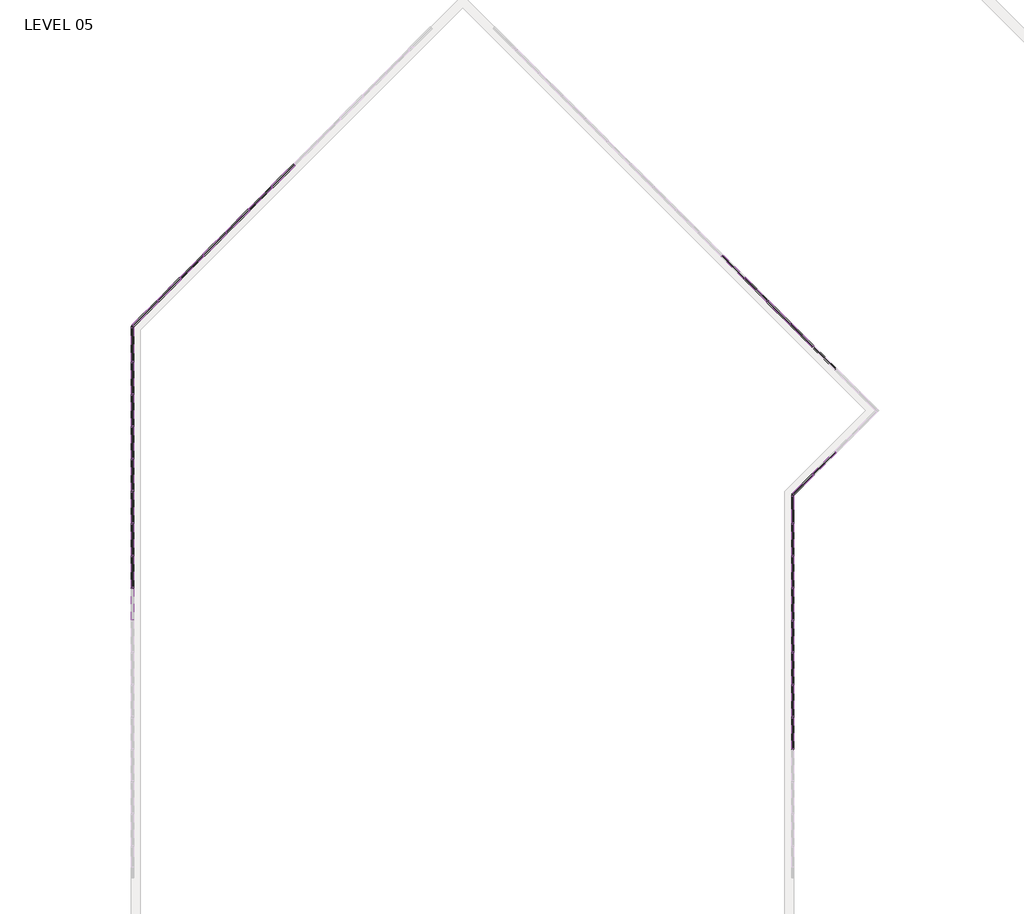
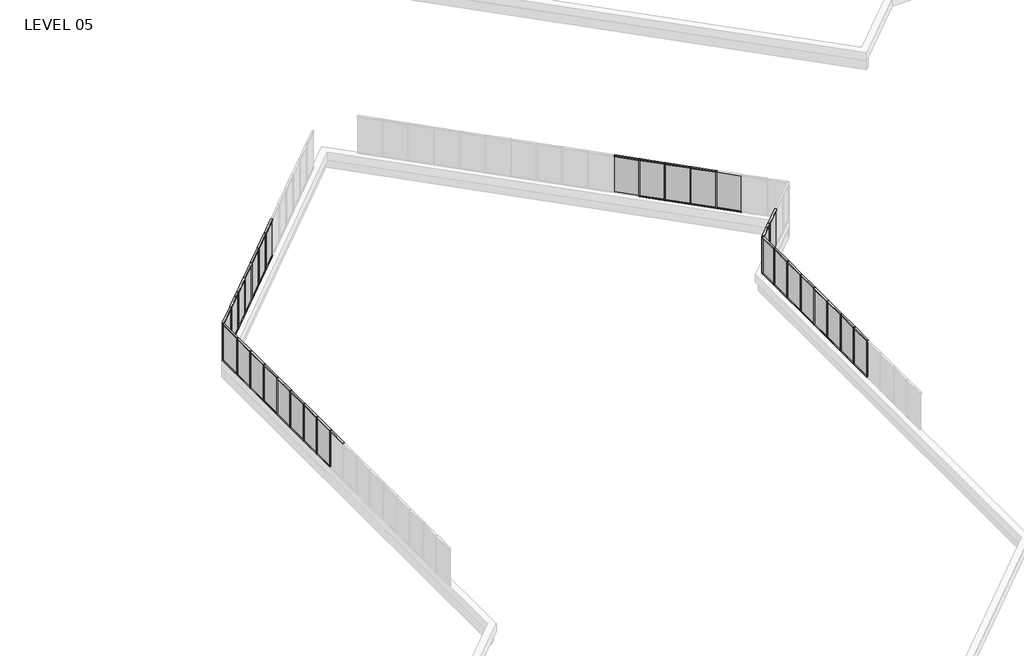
# One storey, part 5 of 17: 89 members, 30 plates.
"""IFC4 building model written with IfcOpenShell, lengths in millimetres."""

from ifc_helpers import new_model, si_unit, origin, place, context, project, spatial, transform, mapped, element, save
from components import member_5247f267, member_e44af9ab, member_800970d4, member_45eb7f2e, member_1bd862b2, member_c975838b, plate_67294edd, plate_bbcbcabf, plate_9c66726c, plate_3fb62afd, plate_129ab9d0

model = new_model("IFC4")

# Units and contexts
model_context = context("Model", 3, world=origin())
ifc_project = project(units=[si_unit("LENGTHUNIT", "METRE", prefix="MILLI")], contexts=[model_context])

# Site, building, storey
site = spatial("IfcSite", under=ifc_project)
building = spatial("IfcBuilding", under=site)
storey = spatial("IfcBuildingStorey", under=building, Name="LEVEL 05", Elevation=15824.2)

# Members
placement = place(None, origin())
member_shape = member_5247f267(model_context)
element("IfcMember", 1, ObjectType="Rectangular Mullion : 2\" x 4.5\" rectangular", at=placement, inside=storey, context=model_context, shape_type="MappedRepresentation", body=[
    mapped(member_shape, transform((-32784.0347164, 64350.5675885, 18415.0), x_axis=(0.0, 0.0, 1.0), y_axis=(1.0, 0.0, 0.0), z_axis=(0.0, 1.0, 0.0))),
])
element("IfcMember", 2, ObjectType="Rectangular Mullion : 2\" x 4.5\" rectangular", at=placement, inside=storey, context=model_context, shape_type="MappedRepresentation", body=[
    mapped(member_shape, transform((-32784.0347164, 67398.5675885, 18415.0), x_axis=(0.0, 0.0, 1.0), y_axis=(1.0, 0.0, 0.0), z_axis=(0.0, 1.0, 0.0))),
])
element("IfcMember", 3, ObjectType="Rectangular Mullion : 2\" x 4.5\" rectangular", at=placement, inside=storey, context=model_context, shape_type="MappedRepresentation", body=[
    mapped(member_shape, transform((-32784.0347164, 71970.5675885, 18415.0), x_axis=(0.0, 0.0, 1.0), y_axis=(1.0, 0.0, 0.0), z_axis=(0.0, 1.0, 0.0))),
])
element("IfcMember", 4, ObjectType="Rectangular Mullion : 2\" x 4.5\" rectangular", at=placement, inside=storey, context=model_context, shape_type="MappedRepresentation", body=[
    mapped(member_shape, transform((-32784.0347164, 73494.5675885, 18415.0), x_axis=(0.0, 0.0, 1.0), y_axis=(1.0, 0.0, 0.0), z_axis=(0.0, 1.0, 0.0))),
])
element("IfcMember", 5, ObjectType="Rectangular Mullion : 2\" x 4.5\" rectangular", at=placement, inside=storey, context=model_context, shape_type="MappedRepresentation", body=[
    mapped(member_shape, transform((-32784.0347164, 65874.5675885, 18415.0), x_axis=(0.0, 0.0, 1.0), y_axis=(1.0, 0.0, 0.0), z_axis=(0.0, 1.0, 0.0))),
])
element("IfcMember", 6, ObjectType="Rectangular Mullion : 2\" x 4.5\" rectangular", at=placement, inside=storey, context=model_context, shape_type="MappedRepresentation", body=[
    mapped(member_shape, transform((-32784.0347164, 68922.5675885, 18415.0), x_axis=(0.0, 0.0, 1.0), y_axis=(1.0, 0.0, 0.0), z_axis=(0.0, 1.0, 0.0))),
])
element("IfcMember", 7, ObjectType="Rectangular Mullion : 2\" x 4.5\" rectangular", at=placement, inside=storey, context=model_context, shape_type="MappedRepresentation", body=[
    mapped(member_shape, transform((-32784.0347164, 70446.5675885, 18415.0), x_axis=(0.0, 0.0, 1.0), y_axis=(1.0, 0.0, 0.0), z_axis=(0.0, 1.0, 0.0))),
])
element("IfcMember", 8, ObjectType="Rectangular Mullion : 2\" x 4.5\" rectangular", at=placement, inside=storey, context=model_context, shape_type="MappedRepresentation", body=[
    mapped(member_shape, transform((-32784.0347164, 75018.5675885, 18415.0), x_axis=(0.0, 0.0, 1.0), y_axis=(1.0, 0.0, 0.0), z_axis=(0.0, 1.0, 0.0))),
])
element("IfcMember", 9, ObjectType="Rectangular Mullion : 2\" x 4.5\" rectangular", at=placement, inside=storey, context=model_context, shape_type="MappedRepresentation", body=[
    mapped(member_shape, transform((-30529.7405, 78987.9679405, 18415.0), x_axis=(0.0, 0.0, 1.0), y_axis=(0.7071067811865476, -0.7071067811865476, 0.0), z_axis=(0.7071067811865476, 0.7071067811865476, 0.0))),
])
element("IfcMember", 10, ObjectType="Rectangular Mullion : 2\" x 4.5\" rectangular", at=placement, inside=storey, context=model_context, shape_type="MappedRepresentation", body=[
    mapped(member_shape, transform((-29452.1097655, 80065.598675, 18415.0), x_axis=(0.0, 0.0, 1.0), y_axis=(0.7071067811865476, -0.7071067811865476, 0.0), z_axis=(0.7071067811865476, 0.7071067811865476, 0.0))),
])
element("IfcMember", 11, ObjectType="Rectangular Mullion : 2\" x 4.5\" rectangular", at=placement, inside=storey, context=model_context, shape_type="MappedRepresentation", body=[
    mapped(member_shape, transform((-28374.479031, 81143.2294096, 18415.0), x_axis=(0.0, 0.0, 1.0), y_axis=(0.7071067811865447, -0.7071067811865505, 0.0), z_axis=(0.7071067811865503, 0.7071067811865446, 0.0))),
])
element("IfcMember", 12, ObjectType="Rectangular Mullion : 2\" x 4.5\" rectangular", at=placement, inside=storey, context=model_context, shape_type="MappedRepresentation", body=[
    mapped(member_shape, transform((-26219.2175619, 83298.4908786, 18415.0), x_axis=(0.0, 0.0, 1.0), y_axis=(0.707106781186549, -0.7071067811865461, 0.0), z_axis=(0.7071067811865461, 0.707106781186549, 0.0))),
])
element("IfcMember", 13, ObjectType="Rectangular Mullion : 2\" x 4.5\" rectangular", at=placement, inside=storey, context=model_context, shape_type="MappedRepresentation", body=[
    mapped(member_shape, transform((-25141.5868274, 84376.1216131, 18415.0), x_axis=(0.0, 0.0, 1.0), y_axis=(0.7071067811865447, -0.7071067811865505, 0.0), z_axis=(0.7071067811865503, 0.7071067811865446, 0.0))),
])
element("IfcMember", 14, ObjectType="Rectangular Mullion : 2\" x 4.5\" rectangular", at=placement, inside=storey, context=model_context, shape_type="MappedRepresentation", body=[
    mapped(member_shape, transform((-27296.8482965, 82220.8601441, 18415.0), x_axis=(0.0, 0.0, 1.0), y_axis=(0.7071067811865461, -0.707106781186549, 0.0), z_axis=(0.707106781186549, 0.7071067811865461, 0.0))),
])
element("IfcMember", 15, ObjectType="Rectangular Mullion : 2\" x 4.5\" rectangular", at=placement, inside=storey, context=model_context, shape_type="MappedRepresentation", body=[
    mapped(member_shape, transform((-3902.2786299, 79024.0676376, 18415.0), x_axis=(0.0, 0.0, 1.0), y_axis=(-0.7071067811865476, -0.7071067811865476, 0.0), z_axis=(0.7071067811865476, -0.7071067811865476, 0.0))),
])
element("IfcMember", 16, ObjectType="Rectangular Mullion : 2\" x 4.5\" rectangular", at=placement, inside=storey, context=model_context, shape_type="MappedRepresentation", body=[
    mapped(member_shape, transform((-2824.6478954, 77946.4369031, 18415.0), x_axis=(0.0, 0.0, 1.0), y_axis=(-0.7071067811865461, -0.707106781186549, 0.0), z_axis=(0.707106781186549, -0.7071067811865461, 0.0))),
])
element("IfcMember", 17, ObjectType="Rectangular Mullion : 2\" x 4.5\" rectangular", at=placement, inside=storey, context=model_context, shape_type="MappedRepresentation", body=[
    mapped(member_shape, transform((-1747.0171608, 76868.8061686, 18415.0), x_axis=(0.0, 0.0, 1.0), y_axis=(-0.7071067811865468, -0.7071067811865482, 0.0), z_axis=(0.7071067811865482, -0.7071067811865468, 0.0))),
])
element("IfcMember", 18, ObjectType="Rectangular Mullion : 2\" x 4.5\" rectangular", at=placement, inside=storey, context=model_context, shape_type="MappedRepresentation", body=[
    mapped(member_shape, transform((-669.3864263, 75791.175434, 18415.0), x_axis=(0.0, 0.0, 1.0), y_axis=(-0.7071067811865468, -0.7071067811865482, 0.0), z_axis=(0.7071067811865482, -0.7071067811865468, 0.0))),
])
element("IfcMember", 19, ObjectType="Rectangular Mullion : 2\" x 4.5\" rectangular", at=placement, inside=storey, context=model_context, shape_type="MappedRepresentation", body=[
    mapped(member_shape, transform((-633.4615109, 69760.6846584, 18415.0), x_axis=(0.0, 0.0, 1.0), y_axis=(-0.7071067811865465, 0.7071067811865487, 0.0), z_axis=(-0.7071067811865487, -0.7071067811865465, 0.0))),
])
element("IfcMember", 20, ObjectType="Rectangular Mullion : 2\" x 4.5\" rectangular", at=placement, inside=storey, context=model_context, shape_type="MappedRepresentation", body=[
    mapped(member_shape, transform((-1611.8847164, 58254.5675885, 18415.0), x_axis=(0.0, 0.0, 1.0), y_axis=(1.0, 0.0, 0.0), z_axis=(0.0, 1.0, 0.0))),
])
element("IfcMember", 21, ObjectType="Rectangular Mullion : 2\" x 4.5\" rectangular", at=placement, inside=storey, context=model_context, shape_type="MappedRepresentation", body=[
    mapped(member_shape, transform((-1611.8847164, 59778.5675885, 18415.0), x_axis=(0.0, 0.0, 1.0), y_axis=(1.0, 0.0, 0.0), z_axis=(0.0, 1.0, 0.0))),
])
element("IfcMember", 22, ObjectType="Rectangular Mullion : 2\" x 4.5\" rectangular", at=placement, inside=storey, context=model_context, shape_type="MappedRepresentation", body=[
    mapped(member_shape, transform((-1611.8847164, 62826.5675885, 18415.0), x_axis=(0.0, 0.0, 1.0), y_axis=(1.0, 0.0, 0.0), z_axis=(0.0, 1.0, 0.0))),
])
element("IfcMember", 23, ObjectType="Rectangular Mullion : 2\" x 4.5\" rectangular", at=placement, inside=storey, context=model_context, shape_type="MappedRepresentation", body=[
    mapped(member_shape, transform((-1611.8847164, 64350.5675885, 18415.0), x_axis=(0.0, 0.0, 1.0), y_axis=(1.0, 0.0, 0.0), z_axis=(0.0, 1.0, 0.0))),
])
element("IfcMember", 24, ObjectType="Rectangular Mullion : 2\" x 4.5\" rectangular", at=placement, inside=storey, context=model_context, shape_type="MappedRepresentation", body=[
    mapped(member_shape, transform((-1611.8847164, 65874.5675885, 18415.0), x_axis=(0.0, 0.0, 1.0), y_axis=(1.0, 0.0, 0.0), z_axis=(0.0, 1.0, 0.0))),
])
element("IfcMember", 25, ObjectType="Rectangular Mullion : 2\" x 4.5\" rectangular", at=placement, inside=storey, context=model_context, shape_type="MappedRepresentation", body=[
    mapped(member_shape, transform((-1611.8847164, 67398.5675885, 18415.0), x_axis=(0.0, 0.0, 1.0), y_axis=(1.0, 0.0, 0.0), z_axis=(0.0, 1.0, 0.0))),
])
element("IfcMember", 26, ObjectType="Rectangular Mullion : 2\" x 4.5\" rectangular", at=placement, inside=storey, context=model_context, shape_type="MappedRepresentation", body=[
    mapped(member_shape, transform((-1611.8847164, 61302.5675885, 18415.0), x_axis=(0.0, 0.0, 1.0), y_axis=(1.0, 0.0, 0.0), z_axis=(0.0, 1.0, 0.0))),
])
element("IfcMember", 27, ObjectType="Rectangular Mullion : 2\" x 4.5\" rectangular", at=placement, inside=storey, context=model_context, shape_type="MappedRepresentation", body=[
    mapped(member_shape, transform((-32784.0347164, 64401.3675885, 15824.2), x_axis=(0.0, 0.0, -1.0), y_axis=(1.0, 0.0, 0.0), z_axis=(0.0, -1.0, 0.0))),
])
element("IfcMember", 28, ObjectType="Rectangular Mullion : 2\" x 4.5\" rectangular", at=placement, inside=storey, context=model_context, shape_type="MappedRepresentation", body=[
    mapped(member_shape, transform((-32784.0347164, 67449.3675885, 15824.2), x_axis=(0.0, 0.0, -1.0), y_axis=(1.0, 0.0, 0.0), z_axis=(0.0, -1.0, 0.0))),
])
element("IfcMember", 29, ObjectType="Rectangular Mullion : 2\" x 4.5\" rectangular", at=placement, inside=storey, context=model_context, shape_type="MappedRepresentation", body=[
    mapped(member_shape, transform((-32784.0347164, 72021.3675885, 15824.2), x_axis=(0.0, 0.0, -1.0), y_axis=(1.0, 0.0, 0.0), z_axis=(0.0, -1.0, 0.0))),
])
element("IfcMember", 30, ObjectType="Rectangular Mullion : 2\" x 4.5\" rectangular", at=placement, inside=storey, context=model_context, shape_type="MappedRepresentation", body=[
    mapped(member_shape, transform((-32784.0347164, 73545.3675885, 15824.2), x_axis=(0.0, 0.0, -1.0), y_axis=(1.0, 0.0, 0.0), z_axis=(0.0, -1.0, 0.0))),
])
element("IfcMember", 31, ObjectType="Rectangular Mullion : 2\" x 4.5\" rectangular", at=placement, inside=storey, context=model_context, shape_type="MappedRepresentation", body=[
    mapped(member_shape, transform((-32784.0347164, 65925.3675885, 15824.2), x_axis=(0.0, 0.0, -1.0), y_axis=(1.0, 0.0, 0.0), z_axis=(0.0, -1.0, 0.0))),
])
element("IfcMember", 32, ObjectType="Rectangular Mullion : 2\" x 4.5\" rectangular", at=placement, inside=storey, context=model_context, shape_type="MappedRepresentation", body=[
    mapped(member_shape, transform((-32784.0347164, 68973.3675885, 15824.2), x_axis=(0.0, 0.0, -1.0), y_axis=(1.0, 0.0, 0.0), z_axis=(0.0, -1.0, 0.0))),
])
element("IfcMember", 33, ObjectType="Rectangular Mullion : 2\" x 4.5\" rectangular", at=placement, inside=storey, context=model_context, shape_type="MappedRepresentation", body=[
    mapped(member_shape, transform((-32784.0347164, 70497.3675885, 15824.2), x_axis=(0.0, 0.0, -1.0), y_axis=(1.0, 0.0, 0.0), z_axis=(0.0, -1.0, 0.0))),
])
element("IfcMember", 34, ObjectType="Rectangular Mullion : 2\" x 4.5\" rectangular", at=placement, inside=storey, context=model_context, shape_type="MappedRepresentation", body=[
    mapped(member_shape, transform((-31571.4502101, 77946.2582305, 15824.2), x_axis=(0.0, 0.0, -1.0), y_axis=(0.7071067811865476, -0.7071067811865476, 0.0), z_axis=(-0.7071067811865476, -0.7071067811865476, 0.0))),
])
element("IfcMember", 35, ObjectType="Rectangular Mullion : 2\" x 4.5\" rectangular", at=placement, inside=storey, context=model_context, shape_type="MappedRepresentation", body=[
    mapped(member_shape, transform((-30493.8194756, 79023.888965, 15824.2), x_axis=(0.0, 0.0, -1.0), y_axis=(0.7071067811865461, -0.707106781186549, 0.0), z_axis=(-0.707106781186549, -0.7071067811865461, 0.0))),
])
element("IfcMember", 36, ObjectType="Rectangular Mullion : 2\" x 4.5\" rectangular", at=placement, inside=storey, context=model_context, shape_type="MappedRepresentation", body=[
    mapped(member_shape, transform((-29416.188741, 80101.5196995, 15824.2), x_axis=(0.0, 0.0, -1.0), y_axis=(0.7071067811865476, -0.7071067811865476, 0.0), z_axis=(-0.7071067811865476, -0.7071067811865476, 0.0))),
])
element("IfcMember", 37, ObjectType="Rectangular Mullion : 2\" x 4.5\" rectangular", at=placement, inside=storey, context=model_context, shape_type="MappedRepresentation", body=[
    mapped(member_shape, transform((-28338.5580065, 81179.150434, 15824.2), x_axis=(0.0, 0.0, -1.0), y_axis=(0.7071067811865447, -0.7071067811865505, 0.0), z_axis=(-0.7071067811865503, -0.7071067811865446, 0.0))),
])
element("IfcMember", 38, ObjectType="Rectangular Mullion : 2\" x 4.5\" rectangular", at=placement, inside=storey, context=model_context, shape_type="MappedRepresentation", body=[
    mapped(member_shape, transform((-26183.2965374, 83334.4119031, 15824.2), x_axis=(0.0, 0.0, -1.0), y_axis=(0.7071067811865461, -0.707106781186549, 0.0), z_axis=(-0.707106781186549, -0.7071067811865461, 0.0))),
])
element("IfcMember", 39, ObjectType="Rectangular Mullion : 2\" x 4.5\" rectangular", at=placement, inside=storey, context=model_context, shape_type="MappedRepresentation", body=[
    mapped(member_shape, transform((-27260.927272, 82256.7811686, 15824.2), x_axis=(0.0, 0.0, -1.0), y_axis=(0.7071067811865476, -0.7071067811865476, 0.0), z_axis=(-0.7071067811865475, -0.7071067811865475, 0.0))),
])
element("IfcMember", 40, ObjectType="Rectangular Mullion : 2\" x 4.5\" rectangular", at=placement, inside=storey, context=model_context, shape_type="MappedRepresentation", body=[
    mapped(member_shape, transform((-3866.3576054, 78988.1466131, 15824.2), x_axis=(0.0, 0.0, -1.0), y_axis=(-0.7071067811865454, -0.7071067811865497, 0.0), z_axis=(-0.7071067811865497, 0.7071067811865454, 0.0))),
])
element("IfcMember", 41, ObjectType="Rectangular Mullion : 2\" x 4.5\" rectangular", at=placement, inside=storey, context=model_context, shape_type="MappedRepresentation", body=[
    mapped(member_shape, transform((-2788.7268709, 77910.5158786, 15824.2), x_axis=(0.0, 0.0, -1.0), y_axis=(-0.7071067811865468, -0.7071067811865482, 0.0), z_axis=(-0.7071067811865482, 0.7071067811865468, 0.0))),
])
element("IfcMember", 42, ObjectType="Rectangular Mullion : 2\" x 4.5\" rectangular", at=placement, inside=storey, context=model_context, shape_type="MappedRepresentation", body=[
    mapped(member_shape, transform((-1711.0961363, 76832.8851441, 15824.2), x_axis=(0.0, 0.0, -1.0), y_axis=(-0.7071067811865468, -0.7071067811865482, 0.0), z_axis=(-0.7071067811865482, 0.7071067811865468, 0.0))),
])
element("IfcMember", 43, ObjectType="Rectangular Mullion : 2\" x 4.5\" rectangular", at=placement, inside=storey, context=model_context, shape_type="MappedRepresentation", body=[
    mapped(member_shape, transform((-633.4654018, 75755.2544096, 15824.2), x_axis=(0.0, 0.0, -1.0), y_axis=(-0.7071067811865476, -0.7071067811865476, 0.0), z_axis=(-0.7071067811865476, 0.7071067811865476, 0.0))),
])
element("IfcMember", 44, ObjectType="Rectangular Mullion : 2\" x 4.5\" rectangular", at=placement, inside=storey, context=model_context, shape_type="MappedRepresentation", body=[
    mapped(member_shape, transform((-1611.8847164, 56781.3675885, 15824.2), x_axis=(0.0, 0.0, -1.0), y_axis=(1.0, 0.0, 0.0), z_axis=(0.0, -1.0, 0.0))),
])
element("IfcMember", 45, ObjectType="Rectangular Mullion : 2\" x 4.5\" rectangular", at=placement, inside=storey, context=model_context, shape_type="MappedRepresentation", body=[
    mapped(member_shape, transform((-1611.8847164, 58305.3675885, 15824.2), x_axis=(0.0, 0.0, -1.0), y_axis=(1.0, 0.0, 0.0), z_axis=(0.0, -1.0, 0.0))),
])
element("IfcMember", 46, ObjectType="Rectangular Mullion : 2\" x 4.5\" rectangular", at=placement, inside=storey, context=model_context, shape_type="MappedRepresentation", body=[
    mapped(member_shape, transform((-1611.8847164, 59829.3675885, 15824.2), x_axis=(0.0, 0.0, -1.0), y_axis=(1.0, 0.0, 0.0), z_axis=(0.0, -1.0, 0.0))),
])
element("IfcMember", 47, ObjectType="Rectangular Mullion : 2\" x 4.5\" rectangular", at=placement, inside=storey, context=model_context, shape_type="MappedRepresentation", body=[
    mapped(member_shape, transform((-1611.8847164, 62877.3675885, 15824.2), x_axis=(0.0, 0.0, -1.0), y_axis=(1.0, 0.0, 0.0), z_axis=(0.0, -1.0, 0.0))),
])
element("IfcMember", 48, ObjectType="Rectangular Mullion : 2\" x 4.5\" rectangular", at=placement, inside=storey, context=model_context, shape_type="MappedRepresentation", body=[
    mapped(member_shape, transform((-1611.8847164, 64401.3675885, 15824.2), x_axis=(0.0, 0.0, -1.0), y_axis=(1.0, 0.0, 0.0), z_axis=(0.0, -1.0, 0.0))),
])
element("IfcMember", 49, ObjectType="Rectangular Mullion : 2\" x 4.5\" rectangular", at=placement, inside=storey, context=model_context, shape_type="MappedRepresentation", body=[
    mapped(member_shape, transform((-1611.8847164, 65925.3675885, 15824.2), x_axis=(0.0, 0.0, -1.0), y_axis=(1.0, 0.0, 0.0), z_axis=(0.0, -1.0, 0.0))),
])
element("IfcMember", 50, ObjectType="Rectangular Mullion : 2\" x 4.5\" rectangular", at=placement, inside=storey, context=model_context, shape_type="MappedRepresentation", body=[
    mapped(member_shape, transform((-1611.8847164, 61353.3675885, 15824.2), x_axis=(0.0, 0.0, -1.0), y_axis=(1.0, 0.0, 0.0), z_axis=(0.0, -1.0, 0.0))),
])
member_2_shape = member_e44af9ab(model_context)
element("IfcMember", 51, ObjectType="Rectangular Mullion : 2\" x 4.5\" rectangular", at=placement, inside=storey, context=model_context, shape_type="MappedRepresentation", body=[
    mapped(member_2_shape, transform((-32784.0347164, 64375.9675885, 15824.2), x_axis=(0.0, 1.0, 0.0), y_axis=(1.0, 0.0, 0.0), z_axis=(0.0, 0.0, -1.0))),
])
element("IfcMember", 52, ObjectType="Rectangular Mullion : 2\" x 4.5\" rectangular", at=placement, inside=storey, context=model_context, shape_type="MappedRepresentation", body=[
    mapped(member_2_shape, transform((-32784.0347164, 67423.9675885, 15824.2), x_axis=(0.0, 1.0, 0.0), y_axis=(1.0, 0.0, 0.0), z_axis=(0.0, 0.0, -1.0))),
])
element("IfcMember", 53, ObjectType="Rectangular Mullion : 2\" x 4.5\" rectangular", at=placement, inside=storey, context=model_context, shape_type="MappedRepresentation", body=[
    mapped(member_2_shape, transform((-32784.0347164, 71995.9675885, 15824.2), x_axis=(0.0, 1.0, 0.0), y_axis=(1.0, 0.0, 0.0), z_axis=(0.0, 0.0, -1.0))),
])
element("IfcMember", 54, ObjectType="Rectangular Mullion : 2\" x 4.5\" rectangular", at=placement, inside=storey, context=model_context, shape_type="MappedRepresentation", body=[
    mapped(member_2_shape, transform((-32784.0347164, 73519.9675885, 15824.2), x_axis=(0.0, 1.0, 0.0), y_axis=(1.0, 0.0, 0.0), z_axis=(0.0, 0.0, -1.0))),
])
element("IfcMember", 55, ObjectType="Rectangular Mullion : 2\" x 4.5\" rectangular", at=placement, inside=storey, context=model_context, shape_type="MappedRepresentation", body=[
    mapped(member_2_shape, transform((-32784.0347164, 65899.9675885, 15824.2), x_axis=(0.0, 1.0, 0.0), y_axis=(1.0, 0.0, 0.0), z_axis=(0.0, 0.0, -1.0))),
])
element("IfcMember", 56, ObjectType="Rectangular Mullion : 2\" x 4.5\" rectangular", at=placement, inside=storey, context=model_context, shape_type="MappedRepresentation", body=[
    mapped(member_2_shape, transform((-32784.0347164, 68947.9675885, 15824.2), x_axis=(0.0, 1.0, 0.0), y_axis=(1.0, 0.0, 0.0), z_axis=(0.0, 0.0, -1.0))),
])
element("IfcMember", 57, ObjectType="Rectangular Mullion : 2\" x 4.5\" rectangular", at=placement, inside=storey, context=model_context, shape_type="MappedRepresentation", body=[
    mapped(member_2_shape, transform((-32784.0347164, 70471.9675885, 15824.2), x_axis=(0.0, 1.0, 0.0), y_axis=(1.0, 0.0, 0.0), z_axis=(0.0, 0.0, -1.0))),
])
element("IfcMember", 58, ObjectType="Rectangular Mullion : 2\" x 4.5\" rectangular", at=placement, inside=storey, context=model_context, shape_type="MappedRepresentation", body=[
    mapped(member_2_shape, transform((-32784.0347164, 75043.9675885, 15824.2), x_axis=(0.0, 1.0, 0.0), y_axis=(1.0, 0.0, 0.0), z_axis=(0.0, 0.0, -1.0))),
])
element("IfcMember", 59, ObjectType="Rectangular Mullion : 2\" x 4.5\" rectangular", at=placement, inside=storey, context=model_context, shape_type="MappedRepresentation", body=[
    mapped(member_2_shape, transform((-31589.4107223, 77928.2977182, 15824.2), x_axis=(0.7071067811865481, 0.7071067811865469, 0.0), y_axis=(0.7071067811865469, -0.7071067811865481, 0.0), z_axis=(0.0, 0.0, -1.0))),
])
element("IfcMember", 60, ObjectType="Rectangular Mullion : 2\" x 4.5\" rectangular", at=placement, inside=storey, context=model_context, shape_type="MappedRepresentation", body=[
    mapped(member_2_shape, transform((-30511.7799878, 79005.9284527, 15824.2), x_axis=(0.7071067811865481, 0.7071067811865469, 0.0), y_axis=(0.7071067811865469, -0.7071067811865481, 0.0), z_axis=(0.0, 0.0, -1.0))),
])
element("IfcMember", 61, ObjectType="Rectangular Mullion : 2\" x 4.5\" rectangular", at=placement, inside=storey, context=model_context, shape_type="MappedRepresentation", body=[
    mapped(member_2_shape, transform((-29434.1492533, 80083.5591873, 15824.2), x_axis=(0.7071067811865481, 0.7071067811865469, 0.0), y_axis=(0.7071067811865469, -0.7071067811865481, 0.0), z_axis=(0.0, 0.0, -1.0))),
])
element("IfcMember", 62, ObjectType="Rectangular Mullion : 2\" x 4.5\" rectangular", at=placement, inside=storey, context=model_context, shape_type="MappedRepresentation", body=[
    mapped(member_2_shape, transform((-28356.5185187, 81161.1899218, 15824.2), x_axis=(0.7071067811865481, 0.7071067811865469, 0.0), y_axis=(0.7071067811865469, -0.7071067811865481, 0.0), z_axis=(0.0, 0.0, -1.0))),
])
element("IfcMember", 63, ObjectType="Rectangular Mullion : 2\" x 4.5\" rectangular", at=placement, inside=storey, context=model_context, shape_type="MappedRepresentation", body=[
    mapped(member_2_shape, transform((-26201.2570497, 83316.4513909, 15824.2), x_axis=(0.7071067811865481, 0.7071067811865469, 0.0), y_axis=(0.7071067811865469, -0.7071067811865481, 0.0), z_axis=(0.0, 0.0, -1.0))),
])
element("IfcMember", 64, ObjectType="Rectangular Mullion : 2\" x 4.5\" rectangular", at=placement, inside=storey, context=model_context, shape_type="MappedRepresentation", body=[
    mapped(member_2_shape, transform((-27278.8877842, 82238.8206563, 15824.2), x_axis=(0.7071067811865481, 0.7071067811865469, 0.0), y_axis=(0.7071067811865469, -0.7071067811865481, 0.0), z_axis=(0.0, 0.0, -1.0))),
])
element("IfcMember", 65, ObjectType="Rectangular Mullion : 2\" x 4.5\" rectangular", at=placement, inside=storey, context=model_context, shape_type="MappedRepresentation", body=[
    mapped(member_2_shape, transform((-3884.3181176, 79006.1071254, 15824.2), x_axis=(0.707106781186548, -0.7071067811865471, 0.0), y_axis=(-0.7071067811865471, -0.707106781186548, 0.0), z_axis=(0.0, 0.0, -1.0))),
])
element("IfcMember", 66, ObjectType="Rectangular Mullion : 2\" x 4.5\" rectangular", at=placement, inside=storey, context=model_context, shape_type="MappedRepresentation", body=[
    mapped(member_2_shape, transform((-2806.6873831, 77928.4763909, 15824.2), x_axis=(0.707106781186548, -0.7071067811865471, 0.0), y_axis=(-0.7071067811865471, -0.707106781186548, 0.0), z_axis=(0.0, 0.0, -1.0))),
])
element("IfcMember", 67, ObjectType="Rectangular Mullion : 2\" x 4.5\" rectangular", at=placement, inside=storey, context=model_context, shape_type="MappedRepresentation", body=[
    mapped(member_2_shape, transform((-1729.0566486, 76850.8456563, 15824.2), x_axis=(0.707106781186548, -0.7071067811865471, 0.0), y_axis=(-0.7071067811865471, -0.707106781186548, 0.0), z_axis=(0.0, 0.0, -1.0))),
])
element("IfcMember", 68, ObjectType="Rectangular Mullion : 2\" x 4.5\" rectangular", at=placement, inside=storey, context=model_context, shape_type="MappedRepresentation", body=[
    mapped(member_2_shape, transform((-651.4259141, 75773.2149218, 15824.2), x_axis=(0.707106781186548, -0.7071067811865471, 0.0), y_axis=(-0.7071067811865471, -0.707106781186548, 0.0), z_axis=(0.0, 0.0, -1.0))),
])
element("IfcMember", 69, ObjectType="Rectangular Mullion : 2\" x 4.5\" rectangular", at=placement, inside=storey, context=model_context, shape_type="MappedRepresentation", body=[
    mapped(member_2_shape, transform((-651.4220231, 69742.7241462, 15824.2), x_axis=(-0.707106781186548, -0.7071067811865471, 0.0), y_axis=(-0.7071067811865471, 0.707106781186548, 0.0), z_axis=(0.0, 0.0, -1.0))),
])
element("IfcMember", 70, ObjectType="Rectangular Mullion : 2\" x 4.5\" rectangular", at=placement, inside=storey, context=model_context, shape_type="MappedRepresentation", body=[
    mapped(member_2_shape, transform((-1611.8847164, 56755.9675885, 15824.2), x_axis=(0.0, 1.0, 0.0), y_axis=(1.0, 0.0, 0.0), z_axis=(0.0, 0.0, -1.0))),
])
element("IfcMember", 71, ObjectType="Rectangular Mullion : 2\" x 4.5\" rectangular", at=placement, inside=storey, context=model_context, shape_type="MappedRepresentation", body=[
    mapped(member_2_shape, transform((-1611.8847164, 58279.9675885, 15824.2), x_axis=(0.0, 1.0, 0.0), y_axis=(1.0, 0.0, 0.0), z_axis=(0.0, 0.0, -1.0))),
])
element("IfcMember", 72, ObjectType="Rectangular Mullion : 2\" x 4.5\" rectangular", at=placement, inside=storey, context=model_context, shape_type="MappedRepresentation", body=[
    mapped(member_2_shape, transform((-1611.8847164, 59803.9675885, 15824.2), x_axis=(0.0, 1.0, 0.0), y_axis=(1.0, 0.0, 0.0), z_axis=(0.0, 0.0, -1.0))),
])
element("IfcMember", 73, ObjectType="Rectangular Mullion : 2\" x 4.5\" rectangular", at=placement, inside=storey, context=model_context, shape_type="MappedRepresentation", body=[
    mapped(member_2_shape, transform((-1611.8847164, 62851.9675885, 15824.2), x_axis=(0.0, 1.0, 0.0), y_axis=(1.0, 0.0, 0.0), z_axis=(0.0, 0.0, -1.0))),
])
element("IfcMember", 74, ObjectType="Rectangular Mullion : 2\" x 4.5\" rectangular", at=placement, inside=storey, context=model_context, shape_type="MappedRepresentation", body=[
    mapped(member_2_shape, transform((-1611.8847164, 64375.9675885, 15824.2), x_axis=(0.0, 1.0, 0.0), y_axis=(1.0, 0.0, 0.0), z_axis=(0.0, 0.0, -1.0))),
])
element("IfcMember", 75, ObjectType="Rectangular Mullion : 2\" x 4.5\" rectangular", at=placement, inside=storey, context=model_context, shape_type="MappedRepresentation", body=[
    mapped(member_2_shape, transform((-1611.8847164, 65899.9675885, 15824.2), x_axis=(0.0, 1.0, 0.0), y_axis=(1.0, 0.0, 0.0), z_axis=(0.0, 0.0, -1.0))),
])
element("IfcMember", 76, ObjectType="Rectangular Mullion : 2\" x 4.5\" rectangular", at=placement, inside=storey, context=model_context, shape_type="MappedRepresentation", body=[
    mapped(member_2_shape, transform((-1611.8847164, 67423.9675885, 15824.2), x_axis=(0.0, 1.0, 0.0), y_axis=(1.0, 0.0, 0.0), z_axis=(0.0, 0.0, -1.0))),
])
element("IfcMember", 77, ObjectType="Rectangular Mullion : 2\" x 4.5\" rectangular", at=placement, inside=storey, context=model_context, shape_type="MappedRepresentation", body=[
    mapped(member_2_shape, transform((-1611.8847164, 61327.9675885, 15824.2), x_axis=(0.0, 1.0, 0.0), y_axis=(1.0, 0.0, 0.0), z_axis=(0.0, 0.0, -1.0))),
])
member_3_shape = member_800970d4(model_context)
element("IfcMember", 78, ObjectType="Rectangular Mullion : 2\" x 4.5\" rectangular", at=placement, inside=storey, context=model_context, shape_type="MappedRepresentation", body=[
    mapped(member_3_shape, transform((-32784.0347164, 76733.6737241, 15824.2), x_axis=(0.0, 1.0, 0.0), y_axis=(1.0, 0.0, 0.0), z_axis=(0.0, 0.0, -1.0))),
])
element("IfcMember", 79, ObjectType="Rectangular Mullion : 2\" x 4.5\" rectangular", at=placement, inside=storey, context=model_context, shape_type="MappedRepresentation", body=[
    mapped(member_3_shape, transform((-1611.8847164, 68782.2614529, 15824.2), x_axis=(-0.707106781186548, -0.7071067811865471, 0.0), y_axis=(-0.7071067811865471, 0.707106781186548, 0.0), z_axis=(0.0, 0.0, -1.0))),
])
element("IfcMember", 80, ObjectType="Rectangular Mullion : 2\" x 4.5\" rectangular", at=placement, inside=storey, context=model_context, shape_type="MappedRepresentation", body=[
    mapped(member_3_shape, transform((-1611.8847164, 68782.2614529, 15824.2), x_axis=(0.0, 1.0, 0.0), y_axis=(1.0, 0.0, 0.0), z_axis=(0.0, 0.0, -1.0))),
])
element("IfcMember", 81, ObjectType="Rectangular Mullion : 2\" x 4.5\" rectangular", at=placement, inside=storey, context=model_context, shape_type="MappedRepresentation", body=[
    mapped(member_3_shape, transform((-32784.0347164, 76733.6737241, 18415.0), x_axis=(-0.7071067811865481, -0.7071067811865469, 0.0), y_axis=(0.7071067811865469, -0.7071067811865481, 0.0), z_axis=(0.0, 0.0, 1.0))),
])
member_4_shape = member_45eb7f2e(model_context)
element("IfcMember", 82, ObjectType="Rectangular Mullion : 2\" x 4.5\" rectangular", at=placement, inside=storey, context=model_context, shape_type="MappedRepresentation", body=[
    mapped(member_4_shape, transform((-1575.9636919, 68818.1824774, 18415.0), x_axis=(0.0, 0.0, 1.0), y_axis=(-0.7071067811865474, 0.7071067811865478, 0.0), z_axis=(-0.7071067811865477, -0.7071067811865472, 0.0))),
])
element("IfcMember", 83, ObjectType="Rectangular Mullion : 2\" x 4.5\" rectangular", at=placement, inside=storey, context=model_context, shape_type="MappedRepresentation", body=[
    mapped(member_4_shape, transform((-1611.8847164, 68731.4614529, 18415.0), x_axis=(0.0, 0.0, 1.0), y_axis=(1.0, 0.0, 0.0), z_axis=(0.0, 1.0, 0.0))),
])
member_5_shape = member_1bd862b2(model_context)
element("IfcMember", 84, ObjectType="Rectangular Mullion : 2\" x 4.5\" rectangular", at=placement, inside=storey, context=model_context, shape_type="MappedRepresentation", body=[
    mapped(member_5_shape, transform((-32784.0347164, 75069.3675885, 15824.2), x_axis=(0.0, 0.0, -1.0), y_axis=(1.0, 0.0, 0.0), z_axis=(0.0, -1.0, 0.0))),
])
element("IfcMember", 85, ObjectType="Rectangular Mullion : 2\" x 4.5\" rectangular", at=placement, inside=storey, context=model_context, shape_type="MappedRepresentation", body=[
    mapped(member_4_shape, transform((-669.3825354, 69724.7636339, 15824.2), x_axis=(0.0, 0.0, -1.0), y_axis=(-0.7071067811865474, 0.7071067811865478, 0.0), z_axis=(0.7071067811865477, 0.7071067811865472, 0.0))),
])
element("IfcMember", 86, ObjectType="Rectangular Mullion : 2\" x 4.5\" rectangular", at=placement, inside=storey, context=model_context, shape_type="MappedRepresentation", body=[
    mapped(member_4_shape, transform((-1611.8847164, 67449.3675885, 15824.2), x_axis=(0.0, 0.0, -1.0), y_axis=(1.0, 0.0, 0.0), z_axis=(0.0, -1.0, 0.0))),
])
element("IfcMember", 87, ObjectType="Rectangular Mullion : 2\" x 4.5\" rectangular", at=placement, inside=storey, context=model_context, shape_type="MappedRepresentation", body=[
    mapped(member_5_shape, transform((-32784.0347164, 76682.8737241, 18415.0), x_axis=(0.0, 0.0, 1.0), y_axis=(1.0, 0.0, 0.0), z_axis=(0.0, 1.0, 0.0))),
])
member_6_shape = member_c975838b(model_context)
element("IfcMember", 88, ObjectType="Rectangular Mullion : 2\" x 4.5\" rectangular", at=placement, inside=storey, context=model_context, shape_type="MappedRepresentation", body=[
    mapped(member_6_shape, transform((-32748.1136919, 76769.5947486, 15824.2), x_axis=(0.0, 0.0, -1.0), y_axis=(0.7071067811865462, -0.7071067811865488, 0.0), z_axis=(-0.7071067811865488, -0.7071067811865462, 0.0))),
])
element("IfcMember", 89, ObjectType="Rectangular Mullion : 2\" x 4.5\" rectangular", at=placement, inside=storey, context=model_context, shape_type="MappedRepresentation", body=[
    mapped(member_6_shape, transform((-31607.3712346, 77910.337206, 18415.0), x_axis=(0.0, 0.0, 1.0), y_axis=(0.7071067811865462, -0.7071067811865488, 0.0), z_axis=(0.7071067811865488, 0.7071067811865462, 0.0))),
])

# Plates
plate_shape = plate_67294edd(model_context)
element("IfcPlate", 90, ObjectType="System Panel : 1/4\" Glass", at=placement, inside=storey, context=model_context, shape_type="MappedRepresentation", body=[
    mapped(plate_shape, transform((-32784.0347164, 65137.9675885, 15875.0), x_axis=(0.0, 1.0, 0.0), y_axis=(-1.0, 0.0, 0.0), z_axis=(0.0, 0.0, 1.0))),
])
element("IfcPlate", 91, ObjectType="System Panel : 1/4\" Glass", at=placement, inside=storey, context=model_context, shape_type="MappedRepresentation", body=[
    mapped(plate_shape, transform((-32784.0347164, 68185.9675885, 15875.0), x_axis=(0.0, 1.0, 0.0), y_axis=(-1.0, 0.0, 0.0), z_axis=(0.0, 0.0, 1.0))),
])
element("IfcPlate", 92, ObjectType="System Panel : 1/4\" Glass", at=placement, inside=storey, context=model_context, shape_type="MappedRepresentation", body=[
    mapped(plate_shape, transform((-32784.0347164, 72757.9675885, 15875.0), x_axis=(0.0, 1.0, 0.0), y_axis=(-1.0, 0.0, 0.0), z_axis=(0.0, 0.0, 1.0))),
])
element("IfcPlate", 93, ObjectType="System Panel : 1/4\" Glass", at=placement, inside=storey, context=model_context, shape_type="MappedRepresentation", body=[
    mapped(plate_shape, transform((-32784.0347164, 74281.9675885, 15875.0), x_axis=(0.0, 1.0, 0.0), y_axis=(-1.0, 0.0, 0.0), z_axis=(0.0, 0.0, 1.0))),
])
element("IfcPlate", 94, ObjectType="System Panel : 1/4\" Glass", at=placement, inside=storey, context=model_context, shape_type="MappedRepresentation", body=[
    mapped(plate_shape, transform((-32784.0347164, 66661.9675885, 15875.0), x_axis=(0.0, 1.0, 0.0), y_axis=(-1.0, 0.0, 0.0), z_axis=(0.0, 0.0, 1.0))),
])
element("IfcPlate", 95, ObjectType="System Panel : 1/4\" Glass", at=placement, inside=storey, context=model_context, shape_type="MappedRepresentation", body=[
    mapped(plate_shape, transform((-32784.0347164, 69709.9675885, 15875.0), x_axis=(0.0, 1.0, 0.0), y_axis=(-1.0, 0.0, 0.0), z_axis=(0.0, 0.0, 1.0))),
])
element("IfcPlate", 96, ObjectType="System Panel : 1/4\" Glass", at=placement, inside=storey, context=model_context, shape_type="MappedRepresentation", body=[
    mapped(plate_shape, transform((-32784.0347164, 71233.9675885, 15875.0), x_axis=(0.0, 1.0, 0.0), y_axis=(-1.0, 0.0, 0.0), z_axis=(0.0, 0.0, 1.0))),
])
element("IfcPlate", 97, ObjectType="System Panel : 1/4\" Glass", at=placement, inside=storey, context=model_context, shape_type="MappedRepresentation", body=[
    mapped(plate_shape, transform((-31050.5953551, 78467.1130855, 15875.0), x_axis=(0.7071067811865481, 0.7071067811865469, 0.0), y_axis=(-0.7071067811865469, 0.7071067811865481, 0.0), z_axis=(0.0, 0.0, 1.0))),
])
element("IfcPlate", 98, ObjectType="System Panel : 1/4\" Glass", at=placement, inside=storey, context=model_context, shape_type="MappedRepresentation", body=[
    mapped(plate_shape, transform((-29972.9646205, 79544.74382, 15875.0), x_axis=(0.7071067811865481, 0.7071067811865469, 0.0), y_axis=(-0.7071067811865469, 0.7071067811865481, 0.0), z_axis=(0.0, 0.0, 1.0))),
])
element("IfcPlate", 99, ObjectType="System Panel : 1/4\" Glass", at=placement, inside=storey, context=model_context, shape_type="MappedRepresentation", body=[
    mapped(plate_shape, transform((-28895.333886, 80622.3745545, 15875.0), x_axis=(0.7071067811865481, 0.7071067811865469, 0.0), y_axis=(-0.7071067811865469, 0.7071067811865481, 0.0), z_axis=(0.0, 0.0, 1.0))),
])
element("IfcPlate", 100, ObjectType="System Panel : 1/4\" Glass", at=placement, inside=storey, context=model_context, shape_type="MappedRepresentation", body=[
    mapped(plate_shape, transform((-27817.7031515, 81700.0052891, 15875.0), x_axis=(0.7071067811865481, 0.7071067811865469, 0.0), y_axis=(-0.7071067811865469, 0.7071067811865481, 0.0), z_axis=(0.0, 0.0, 1.0))),
])
element("IfcPlate", 101, ObjectType="System Panel : 1/4\" Glass", at=placement, inside=storey, context=model_context, shape_type="MappedRepresentation", body=[
    mapped(plate_shape, transform((-25662.4416824, 83855.2667581, 15875.0), x_axis=(0.7071067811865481, 0.7071067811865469, 0.0), y_axis=(-0.7071067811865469, 0.7071067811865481, 0.0), z_axis=(0.0, 0.0, 1.0))),
])
element("IfcPlate", 102, ObjectType="System Panel : 1/4\" Glass", at=placement, inside=storey, context=model_context, shape_type="MappedRepresentation", body=[
    mapped(plate_shape, transform((-26740.072417, 82777.6360236, 15875.0), x_axis=(0.7071067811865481, 0.7071067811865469, 0.0), y_axis=(-0.7071067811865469, 0.7071067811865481, 0.0), z_axis=(0.0, 0.0, 1.0))),
])
element("IfcPlate", 103, ObjectType="System Panel : 1/4\" Glass", at=placement, inside=storey, context=model_context, shape_type="MappedRepresentation", body=[
    mapped(plate_shape, transform((-4423.1334849, 79544.9224927, 15875.0), x_axis=(0.707106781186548, -0.7071067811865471, 0.0), y_axis=(0.7071067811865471, 0.707106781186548, 0.0), z_axis=(0.0, 0.0, 1.0))),
])
element("IfcPlate", 104, ObjectType="System Panel : 1/4\" Glass", at=placement, inside=storey, context=model_context, shape_type="MappedRepresentation", body=[
    mapped(plate_shape, transform((-3345.5027504, 78467.2917581, 15875.0), x_axis=(0.707106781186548, -0.7071067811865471, 0.0), y_axis=(0.7071067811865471, 0.707106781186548, 0.0), z_axis=(0.0, 0.0, 1.0))),
])
element("IfcPlate", 105, ObjectType="System Panel : 1/4\" Glass", at=placement, inside=storey, context=model_context, shape_type="MappedRepresentation", body=[
    mapped(plate_shape, transform((-2267.8720159, 77389.6610236, 15875.0), x_axis=(0.707106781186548, -0.7071067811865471, 0.0), y_axis=(0.7071067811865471, 0.707106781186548, 0.0), z_axis=(0.0, 0.0, 1.0))),
])
element("IfcPlate", 106, ObjectType="System Panel : 1/4\" Glass", at=placement, inside=storey, context=model_context, shape_type="MappedRepresentation", body=[
    mapped(plate_shape, transform((-1190.2412813, 76312.0302891, 15875.0), x_axis=(0.707106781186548, -0.7071067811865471, 0.0), y_axis=(0.7071067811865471, 0.707106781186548, 0.0), z_axis=(0.0, 0.0, 1.0))),
])
element("IfcPlate", 107, ObjectType="System Panel : 1/4\" Glass", at=placement, inside=storey, context=model_context, shape_type="MappedRepresentation", body=[
    mapped(plate_shape, transform((-112.6105468, 75234.3995545, 15875.0), x_axis=(0.707106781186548, -0.7071067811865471, 0.0), y_axis=(0.7071067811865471, 0.707106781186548, 0.0), z_axis=(0.0, 0.0, 1.0))),
])
element("IfcPlate", 108, ObjectType="System Panel : 1/4\" Glass", at=placement, inside=storey, context=model_context, shape_type="MappedRepresentation", body=[
    mapped(plate_shape, transform((-112.6066559, 70281.5395134, 15875.0), x_axis=(-0.707106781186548, -0.7071067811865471, 0.0), y_axis=(0.7071067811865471, -0.707106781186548, 0.0), z_axis=(0.0, 0.0, 1.0))),
])
element("IfcPlate", 109, ObjectType="System Panel : 1/4\" Glass", at=placement, inside=storey, context=model_context, shape_type="MappedRepresentation", body=[
    mapped(plate_shape, transform((-1611.8847164, 57517.9675885, 15875.0), x_axis=(0.0, 1.0, 0.0), y_axis=(-1.0, 0.0, 0.0), z_axis=(0.0, 0.0, 1.0))),
])
element("IfcPlate", 110, ObjectType="System Panel : 1/4\" Glass", at=placement, inside=storey, context=model_context, shape_type="MappedRepresentation", body=[
    mapped(plate_shape, transform((-1611.8847164, 59041.9675885, 15875.0), x_axis=(0.0, 1.0, 0.0), y_axis=(-1.0, 0.0, 0.0), z_axis=(0.0, 0.0, 1.0))),
])
element("IfcPlate", 111, ObjectType="System Panel : 1/4\" Glass", at=placement, inside=storey, context=model_context, shape_type="MappedRepresentation", body=[
    mapped(plate_shape, transform((-1611.8847164, 60565.9675885, 15875.0), x_axis=(0.0, 1.0, 0.0), y_axis=(-1.0, 0.0, 0.0), z_axis=(0.0, 0.0, 1.0))),
])
element("IfcPlate", 112, ObjectType="System Panel : 1/4\" Glass", at=placement, inside=storey, context=model_context, shape_type="MappedRepresentation", body=[
    mapped(plate_shape, transform((-1611.8847164, 63613.9675885, 15875.0), x_axis=(0.0, 1.0, 0.0), y_axis=(-1.0, 0.0, 0.0), z_axis=(0.0, 0.0, 1.0))),
])
element("IfcPlate", 113, ObjectType="System Panel : 1/4\" Glass", at=placement, inside=storey, context=model_context, shape_type="MappedRepresentation", body=[
    mapped(plate_shape, transform((-1611.8847164, 65137.9675885, 15875.0), x_axis=(0.0, 1.0, 0.0), y_axis=(-1.0, 0.0, 0.0), z_axis=(0.0, 0.0, 1.0))),
])
element("IfcPlate", 114, ObjectType="System Panel : 1/4\" Glass", at=placement, inside=storey, context=model_context, shape_type="MappedRepresentation", body=[
    mapped(plate_shape, transform((-1611.8847164, 66661.9675885, 15875.0), x_axis=(0.0, 1.0, 0.0), y_axis=(-1.0, 0.0, 0.0), z_axis=(0.0, 0.0, 1.0))),
])
element("IfcPlate", 115, ObjectType="System Panel : 1/4\" Glass", at=placement, inside=storey, context=model_context, shape_type="MappedRepresentation", body=[
    mapped(plate_shape, transform((-1611.8847164, 62089.9675885, 15875.0), x_axis=(0.0, 1.0, 0.0), y_axis=(-1.0, 0.0, 0.0), z_axis=(0.0, 0.0, 1.0))),
])
plate_2_shape = plate_bbcbcabf(model_context)
element("IfcPlate", 116, ObjectType="System Panel : 1/4\" Glass", at=placement, inside=storey, context=model_context, shape_type="MappedRepresentation", body=[
    mapped(plate_2_shape, transform((-32784.0347164, 75876.1206563, 15875.0), x_axis=(0.0, 1.0, 0.0), y_axis=(-1.0, 0.0, 0.0), z_axis=(0.0, 0.0, 1.0))),
])
plate_3_shape = plate_9c66726c(model_context)
element("IfcPlate", 117, ObjectType="System Panel : 1/4\" Glass", at=placement, inside=storey, context=model_context, shape_type="MappedRepresentation", body=[
    mapped(plate_3_shape, transform((-1611.8847164, 68090.4145207, 15875.0), x_axis=(0.0, 1.0, 0.0), y_axis=(-1.0, 0.0, 0.0), z_axis=(0.0, 0.0, 1.0))),
])
plate_4_shape = plate_3fb62afd(model_context)
element("IfcPlate", 118, ObjectType="System Panel : 1/4\" Glass", at=placement, inside=storey, context=model_context, shape_type="MappedRepresentation", body=[
    mapped(plate_4_shape, transform((-32177.7424632, 77339.9659773, 15875.0), x_axis=(0.7071067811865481, 0.7071067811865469, 0.0), y_axis=(-0.7071067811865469, 0.7071067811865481, 0.0), z_axis=(0.0, 0.0, 1.0))),
])
plate_5_shape = plate_129ab9d0(model_context)
element("IfcPlate", 119, ObjectType="System Panel : 1/4\" Glass", at=placement, inside=storey, context=model_context, shape_type="MappedRepresentation", body=[
    mapped(plate_5_shape, transform((-1122.6731136, 69271.4730556, 15875.0), x_axis=(-0.707106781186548, -0.7071067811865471, 0.0), y_axis=(0.7071067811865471, -0.707106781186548, 0.0), z_axis=(0.0, 0.0, 1.0))),
])

save(model, "model.ifc")
